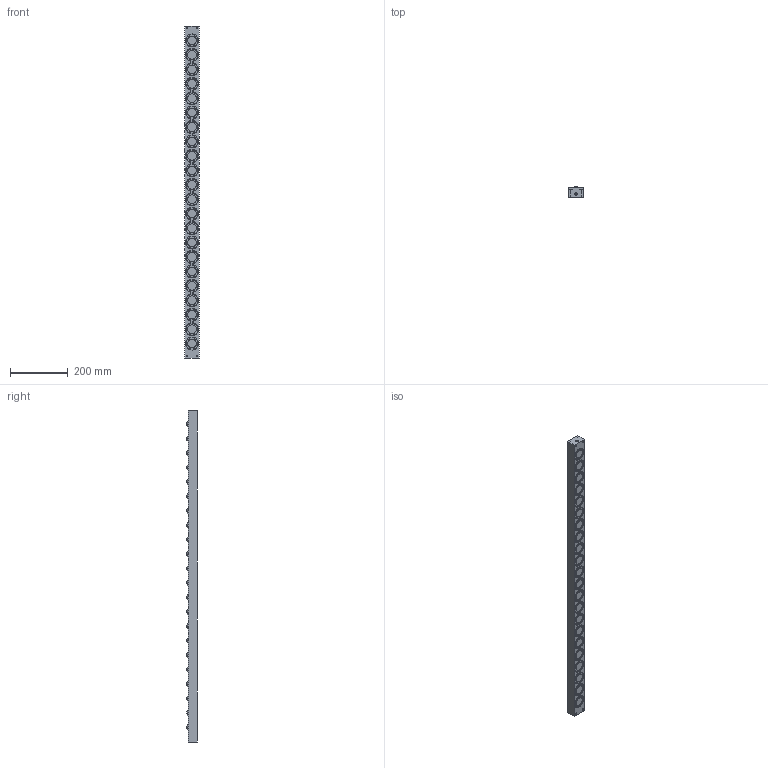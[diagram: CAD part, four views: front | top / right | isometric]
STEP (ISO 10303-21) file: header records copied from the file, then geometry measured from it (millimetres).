
FILE_DESCRIPTION (( 'STEP AP203' ), '1' );
FILE_NAME ('PVL55SL-22.STEP', '2016-02-18T07:24:37', ( '' ), ( '' ), 'SwSTEP 2.0', 'SolidWorks 2013', '' );
FILE_SCHEMA (( 'CONFIG_CONTROL_DESIGN' ));
Length unit declared in the file: millimetre
Products named in the file (1): PVL55SL-22
Bounding box: 49 x 38 x 1150 mm (x, y, z)
Volume: 1779158.5 mm3; surface area: 250230.8 mm2
Topology: 1 solids, 1 shells, 891 faces, 2210 edges, 1479 vertices
Faces by surface type: cylinder 590, plane 253, sphere 44, cone 4
Entity records: 27367 total; most frequent: DIRECTION 5396, CARTESIAN_POINT 4579, ORIENTED_EDGE 4416, AXIS2_PLACEMENT_3D 2296, EDGE_CURVE 2208, VERTEX_POINT 1479, CIRCLE 1404, EDGE_LOOP 1059
